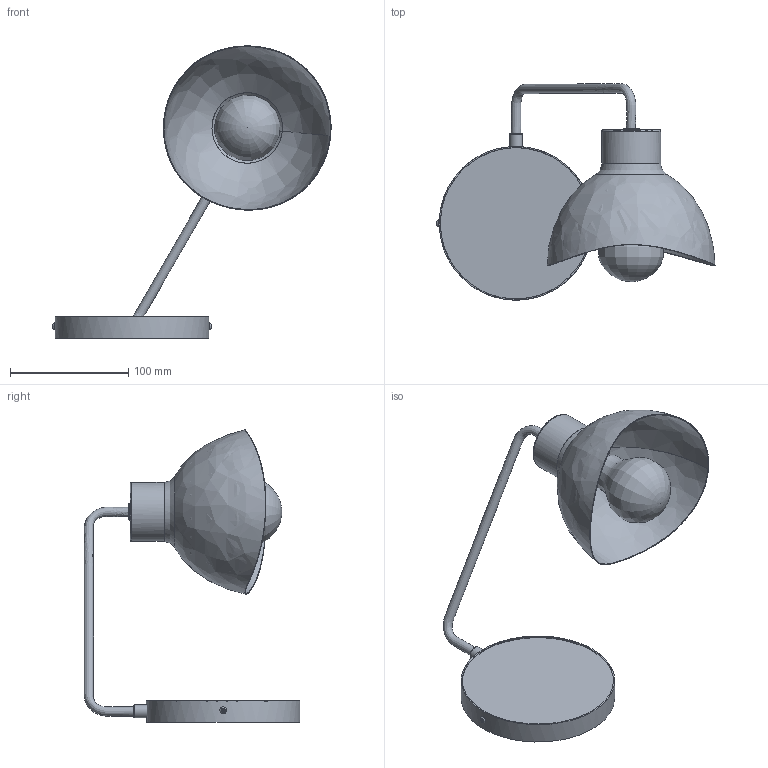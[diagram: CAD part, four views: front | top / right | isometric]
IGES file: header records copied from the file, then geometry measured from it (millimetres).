
Global section: file name: F:\\_Liczy si\X2\0119\X0\ s\X2\0142\X0\owo\\_Modelowanie SIGMA\\Holi kinkiet\\Holi pojedynczy\\model\\gotowe\\Holi pojedynczy.igs; native system: HarmonyWare Translators; preprocessor: HarmonyWare IGES v2.1.4; date: 20241205.222251; units: centimetre
Bounding box: 235.42 x 182.78 x 247.29 mm (x, y, z)
Volume: 356054.9 mm3; surface area: 131682.5 mm2
Topology: 18 solids, 18 shells, 288 faces, 837 edges, 567 vertices
Faces by surface type: bspline 288
